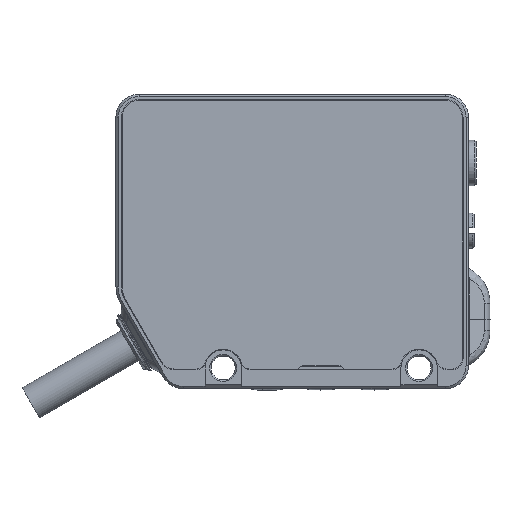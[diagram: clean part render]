
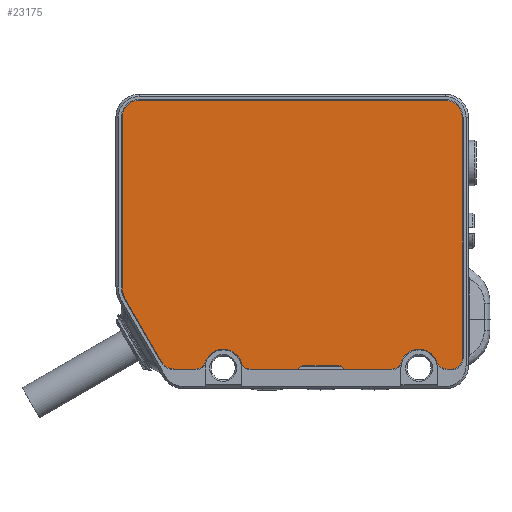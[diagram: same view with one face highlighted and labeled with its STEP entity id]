
A CAD part, left-side view. The second image highlights one B-rep face of the part: STEP entity #23175.
In plain terms, the highlighted planar face has unit normal (-1, 0, 0).
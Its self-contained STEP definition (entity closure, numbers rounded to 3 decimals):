
#22724=DIRECTION('',(0.,-1.,0.));
#22725=VECTOR('',#22724,6.167);
#22726=CARTESIAN_POINT('',(-15.099,-37.752,-14.003));
#22727=LINE('',#22726,#22725);
#22732=CARTESIAN_POINT('',(-15.099,-37.752,-12.753));
#22733=DIRECTION('',(1.,0.,0.));
#22734=DIRECTION('',(0.,0.,-1.));
#22735=AXIS2_PLACEMENT_3D('',#22732,#22733,#22734);
#22737=CARTESIAN_POINT('',(-15.099,-30.686,-12.753));
#22738=DIRECTION('',(1.,0.,0.));
#22739=DIRECTION('',(0.,-0.955,-0.297));
#22740=AXIS2_PLACEMENT_3D('',#22737,#22738,#22739);
#22742=CARTESIAN_POINT('',(-15.099,-27.925,
-12.003));
#22743=DIRECTION('',(1.,0.,0.));
#22744=DIRECTION('',(0.,0.,-1.));
#22745=AXIS2_PLACEMENT_3D('',#22742,#22743,#22744);
#22747=DIRECTION('',(0.,0.5,0.866));
#22748=VECTOR('',#22747,9.294);
#22749=CARTESIAN_POINT('',(-15.099,-26.193,
-13.003));
#22750=LINE('',#22749,#22748);
#22751=CARTESIAN_POINT('',(-15.099,-24.36,
-3.329));
#22752=DIRECTION('',(1.,0.,0.));
#22753=DIRECTION('',(0.,0.866,-0.5));
#22754=AXIS2_PLACEMENT_3D('',#22751,#22752,#22753);
#22756=CARTESIAN_POINT('',(-15.099,-23.36,18.597));
#22757=DIRECTION('',(1.,0.,0.));
#22758=DIRECTION('',(0.,1.,0.));
#22759=AXIS2_PLACEMENT_3D('',#22756,#22757,#22758);
#22761=CARTESIAN_POINT('',(-15.099,-62.96,18.597));
#22762=DIRECTION('',(1.,0.,0.));
#22763=DIRECTION('',(0.,0.,1.));
#22764=AXIS2_PLACEMENT_3D('',#22761,#22762,#22763);
#22766=CARTESIAN_POINT('',(-15.099,-63.81,-12.603));
#22767=DIRECTION('',(1.,0.,0.));
#22768=DIRECTION('',(0.,-1.,0.));
#22769=AXIS2_PLACEMENT_3D('',#22766,#22767,#22768);
#22771=DIRECTION('',(0.,1.,0.));
#22772=VECTOR('',#22771,0.55);
#22773=CARTESIAN_POINT('',(-15.099,-63.81,-14.003));
#22774=LINE('',#22773,#22772);
#22775=CARTESIAN_POINT('',(-15.099,-63.26,-12.603));
#22776=DIRECTION('',(1.,0.,0.));
#22777=DIRECTION('',(0.,0.,-1.));
#22778=AXIS2_PLACEMENT_3D('',#22775,#22776,#22777);
#22780=CARTESIAN_POINT('',(-15.099,-56.086,-12.753));
#22781=DIRECTION('',(1.,0.,0.));
#22782=DIRECTION('',(0.,-0.955,-0.297));
#22783=AXIS2_PLACEMENT_3D('',#22780,#22781,#22782);
#22785=CARTESIAN_POINT('',(-15.099,-49.053,-14.503));
#22786=DIRECTION('',(-1.,0.,0.));
#22787=DIRECTION('',(0.,-0.866,0.5));
#22788=AXIS2_PLACEMENT_3D('',#22785,#22786,#22787);
#22790=CARTESIAN_POINT('',(-15.099,-44.785,-14.503));
#22791=DIRECTION('',(-1.,0.,0.));
#22792=DIRECTION('',(0.,0.,1.));
#22793=AXIS2_PLACEMENT_3D('',#22790,#22791,#22792);
#22799=CARTESIAN_POINT('',(-15.099,-34.219,-13.853));
#22800=DIRECTION('',(1.,0.,0.));
#22801=DIRECTION('',(0.,0.955,0.297));
#22802=AXIS2_PLACEMENT_3D('',#22799,#22800,#22801);
#22893=DIRECTION('',(0.,-1.,0.));
#22894=VECTOR('',#22893,4.268);
#22895=CARTESIAN_POINT('',(-15.099,-44.785,-13.503));
#22896=LINE('',#22895,#22894);
#22905=DIRECTION('',(0.,-1.,0.));
#22906=VECTOR('',#22905,6.167);
#22907=CARTESIAN_POINT('',(-15.099,-49.919,-14.003));
#22908=LINE('',#22907,#22906);
#22917=CARTESIAN_POINT('',(-15.099,-59.619,-13.853));
#22918=DIRECTION('',(1.,0.,0.));
#22919=DIRECTION('',(0.,0.955,0.297));
#22920=AXIS2_PLACEMENT_3D('',#22917,#22918,#22919);
#22946=DIRECTION('',(0.,0.,1.));
#22947=VECTOR('',#22946,31.2);
#22948=CARTESIAN_POINT('',(-15.099,-65.21,-12.603));
#22949=LINE('',#22948,#22947);
#22962=DIRECTION('',(0.,1.,0.));
#22963=VECTOR('',#22962,39.6);
#22964=CARTESIAN_POINT('',(-15.099,-62.96,20.847));
#22965=LINE('',#22964,#22963);
#22978=DIRECTION('',(0.,0.,-1.));
#22979=VECTOR('',#22978,21.926);
#22980=CARTESIAN_POINT('',(-15.099,-21.11,18.597));
#22981=LINE('',#22980,#22979);
#22998=DIRECTION('',(0.,-1.,0.));
#22999=VECTOR('',#22998,2.762);
#23000=CARTESIAN_POINT('',(-15.099,-27.925,
-14.003));
#23001=LINE('',#23000,#22999);
#23014=CARTESIAN_POINT('',(-15.099,-37.752,-14.003));
#23015=CARTESIAN_POINT('',(-15.099,-43.919,-14.003));
#23016=VERTEX_POINT('',#23014);
#23017=VERTEX_POINT('',#23015);
#23018=CARTESIAN_POINT('',(-15.099,-36.558,-13.125));
#23019=VERTEX_POINT('',#23018);
#23020=CARTESIAN_POINT('',(-15.099,-31.88,-13.125));
#23021=CARTESIAN_POINT('',(-15.099,-30.686,-14.003));
#23022=VERTEX_POINT('',#23020);
#23023=VERTEX_POINT('',#23021);
#23024=CARTESIAN_POINT('',(-15.099,-27.925,
-14.003));
#23025=VERTEX_POINT('',#23024);
#23026=CARTESIAN_POINT('',(-15.099,-26.193,
-13.003));
#23027=VERTEX_POINT('',#23026);
#23028=CARTESIAN_POINT('',(-15.099,-21.545,
-4.954));
#23029=VERTEX_POINT('',#23028);
#23030=CARTESIAN_POINT('',(-15.099,-21.11,
-3.329));
#23031=VERTEX_POINT('',#23030);
#23032=CARTESIAN_POINT('',(-15.099,-21.11,18.597));
#23033=VERTEX_POINT('',#23032);
#23034=CARTESIAN_POINT('',(-15.099,-23.36,20.847));
#23035=VERTEX_POINT('',#23034);
#23036=CARTESIAN_POINT('',(-15.099,-62.96,20.847));
#23037=VERTEX_POINT('',#23036);
#23038=CARTESIAN_POINT('',(-15.099,-65.21,18.597));
#23039=VERTEX_POINT('',#23038);
#23040=CARTESIAN_POINT('',(-15.099,-65.21,-12.603));
#23041=VERTEX_POINT('',#23040);
#23042=CARTESIAN_POINT('',(-15.099,-63.81,-14.003));
#23043=VERTEX_POINT('',#23042);
#23044=CARTESIAN_POINT('',(-15.099,-63.26,-14.003));
#23045=VERTEX_POINT('',#23044);
#23046=CARTESIAN_POINT('',(-15.099,-61.936,-13.058));
#23047=VERTEX_POINT('',#23046);
#23048=CARTESIAN_POINT('',(-15.099,-57.28,-13.125));
#23049=CARTESIAN_POINT('',(-15.099,-56.086,-14.003));
#23050=VERTEX_POINT('',#23048);
#23051=VERTEX_POINT('',#23049);
#23052=CARTESIAN_POINT('',(-15.099,-49.919,-14.003));
#23053=VERTEX_POINT('',#23052);
#23054=CARTESIAN_POINT('',(-15.099,-49.053,-13.503));
#23055=VERTEX_POINT('',#23054);
#23056=CARTESIAN_POINT('',(-15.099,-44.785,-13.503));
#23057=VERTEX_POINT('',#23056);
#23125=CARTESIAN_POINT('',(-15.099,-23.11,-8.171));
#23126=DIRECTION('',(-1.,0.,0.));
#23127=DIRECTION('',(0.,0.,1.));
#23128=AXIS2_PLACEMENT_3D('',#23125,#23126,#23127);
#23129=PLANE('',#23128);
#23130=ORIENTED_EDGE('',*,*,#23107,.F.);
#23132=ORIENTED_EDGE('',*,*,#23131,.T.);
#23134=ORIENTED_EDGE('',*,*,#23133,.F.);
#23136=ORIENTED_EDGE('',*,*,#23135,.T.);
#23138=ORIENTED_EDGE('',*,*,#23137,.F.);
#23140=ORIENTED_EDGE('',*,*,#23139,.T.);
#23142=ORIENTED_EDGE('',*,*,#23141,.T.);
#23144=ORIENTED_EDGE('',*,*,#23143,.T.);
#23146=ORIENTED_EDGE('',*,*,#23145,.F.);
#23148=ORIENTED_EDGE('',*,*,#23147,.T.);
#23150=ORIENTED_EDGE('',*,*,#23149,.F.);
#23152=ORIENTED_EDGE('',*,*,#23151,.T.);
#23154=ORIENTED_EDGE('',*,*,#23153,.F.);
#23156=ORIENTED_EDGE('',*,*,#23155,.T.);
#23158=ORIENTED_EDGE('',*,*,#23157,.T.);
#23160=ORIENTED_EDGE('',*,*,#23159,.T.);
#23162=ORIENTED_EDGE('',*,*,#23161,.F.);
#23164=ORIENTED_EDGE('',*,*,#23163,.T.);
#23166=ORIENTED_EDGE('',*,*,#23165,.F.);
#23168=ORIENTED_EDGE('',*,*,#23167,.T.);
#23170=ORIENTED_EDGE('',*,*,#23169,.F.);
#23172=ORIENTED_EDGE('',*,*,#23171,.T.);
#23173=EDGE_LOOP('',(#23130,#23132,#23134,#23136,#23138,#23140,#23142,#23144,
#23146,#23148,#23150,#23152,#23154,#23156,#23158,#23160,#23162,#23164,#23166,
#23168,#23170,#23172));
#23174=FACE_OUTER_BOUND('',#23173,.F.);
#22736=CIRCLE('',#22735,1.25);
#22741=CIRCLE('',#22740,1.25);
#22746=CIRCLE('',#22745,2.);
#22755=CIRCLE('',#22754,3.25);
#22760=CIRCLE('',#22759,2.25);
#22765=CIRCLE('',#22764,2.25);
#22770=CIRCLE('',#22769,1.4);
#22779=CIRCLE('',#22778,1.4);
#22784=CIRCLE('',#22783,1.25);
#22789=CIRCLE('',#22788,1.);
#22794=CIRCLE('',#22793,1.);
#22803=CIRCLE('',#22802,2.45);
#22921=CIRCLE('',#22920,2.45);
#23107=EDGE_CURVE('',#23016,#23017,#22727,.T.);
#23131=EDGE_CURVE('',#23016,#23019,#22736,.T.);
#23133=EDGE_CURVE('',#23022,#23019,#22803,.T.);
#23135=EDGE_CURVE('',#23022,#23023,#22741,.T.);
#23137=EDGE_CURVE('',#23025,#23023,#23001,.T.);
#23139=EDGE_CURVE('',#23025,#23027,#22746,.T.);
#23141=EDGE_CURVE('',#23027,#23029,#22750,.T.);
#23143=EDGE_CURVE('',#23029,#23031,#22755,.T.);
#23145=EDGE_CURVE('',#23033,#23031,#22981,.T.);
#23147=EDGE_CURVE('',#23033,#23035,#22760,.T.);
#23149=EDGE_CURVE('',#23037,#23035,#22965,.T.);
#23151=EDGE_CURVE('',#23037,#23039,#22765,.T.);
#23153=EDGE_CURVE('',#23041,#23039,#22949,.T.);
#23155=EDGE_CURVE('',#23041,#23043,#22770,.T.);
#23157=EDGE_CURVE('',#23043,#23045,#22774,.T.);
#23159=EDGE_CURVE('',#23045,#23047,#22779,.T.);
#23161=EDGE_CURVE('',#23050,#23047,#22921,.T.);
#23163=EDGE_CURVE('',#23050,#23051,#22784,.T.);
#23165=EDGE_CURVE('',#23053,#23051,#22908,.T.);
#23167=EDGE_CURVE('',#23053,#23055,#22789,.T.);
#23169=EDGE_CURVE('',#23057,#23055,#22896,.T.);
#23171=EDGE_CURVE('',#23057,#23017,#22794,.T.);
#23175=ADVANCED_FACE('',(#23174),#23129,.T.);
